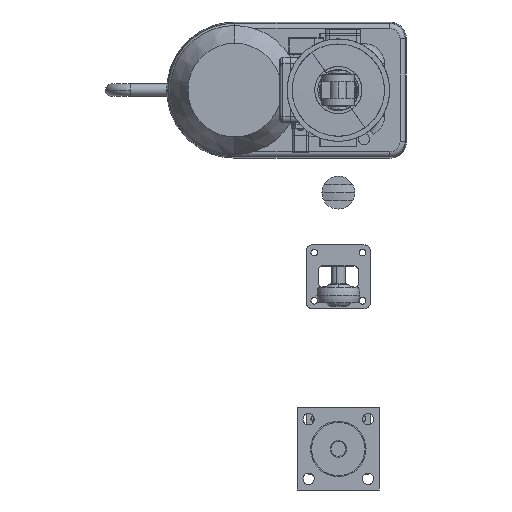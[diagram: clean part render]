
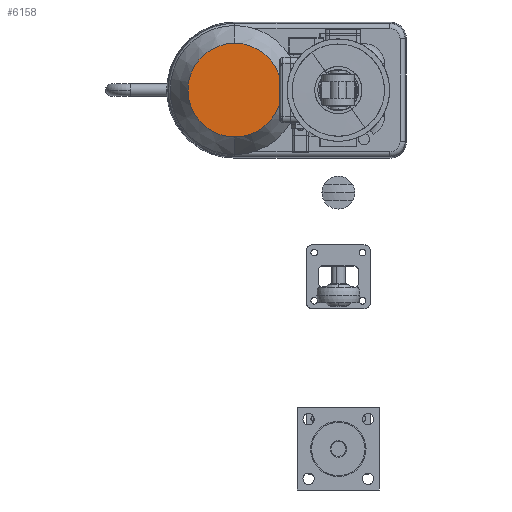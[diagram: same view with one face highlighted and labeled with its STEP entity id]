
A CAD part, left-side view. The second image highlights one B-rep face of the part: STEP entity #6158.
In plain terms, the highlighted planar face has unit normal (-1, 0, 0) as drawn and (0, 0, -1) by its records, which use the part's own axes.
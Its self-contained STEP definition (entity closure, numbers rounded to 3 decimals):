
#6158 = ADVANCED_FACE ( 'NONE', ( #49168 ), #9160, .F. ) ;
#6952 = EDGE_CURVE ( 'NONE', #53342, #53336, #39200, .T. ) ;
#6971 = EDGE_CURVE ( 'NONE', #53336, #53342, #39233, .T. ) ;
#9158 = CARTESIAN_POINT ( 'NONE',  ( -16.958, 112.38, -262.569 ) ) ;
#9160 = PLANE ( 'NONE',  #42220 ) ;
#9163 = DIRECTION ( 'NONE',  ( 0., 0., 1. ) ) ;
#9164 = DIRECTION ( 'NONE',  ( 1., 0., 0. ) ) ;
#10326 = EDGE_LOOP ( 'NONE', ( #67254, #67253 ) ) ;
#37162 = CARTESIAN_POINT ( 'NONE',  ( -16.958, 66.701, -262.569 ) ) ;
#37163 = DIRECTION ( 'NONE',  ( 0., 0., 1. ) ) ;
#37164 = DIRECTION ( 'NONE',  ( 1., 0., 0. ) ) ;
#37213 = CARTESIAN_POINT ( 'NONE',  ( -16.958, 66.701, -262.569 ) ) ;
#37214 = DIRECTION ( 'NONE',  ( 0., 0., 1. ) ) ;
#37215 = DIRECTION ( 'NONE',  ( 1., 0., 0. ) ) ;
#39200 = CIRCLE ( 'NONE', #41824, 45.679 ) ;
#39233 = CIRCLE ( 'NONE', #41809, 45.679 ) ;
#41809 = AXIS2_PLACEMENT_3D ( 'NONE', #37213, #37214, #37215 ) ;
#41824 = AXIS2_PLACEMENT_3D ( 'NONE', #37162, #37163, #37164 ) ;
#42220 = AXIS2_PLACEMENT_3D ( 'NONE', #9158, #9163, #9164 ) ;
#49168 = FACE_OUTER_BOUND ( 'NONE', #10326, .T. ) ;
#53336 = VERTEX_POINT ( 'NONE', #57763 ) ;
#53342 = VERTEX_POINT ( 'NONE', #57766 ) ;
#57763 = CARTESIAN_POINT ( 'NONE',  ( -62.637, 66.701, -262.569 ) ) ;
#57766 = CARTESIAN_POINT ( 'NONE',  ( 28.722, 66.701, -262.569 ) ) ;
#67253 = ORIENTED_EDGE ( 'NONE', *, *, #6971, .F. ) ;
#67254 = ORIENTED_EDGE ( 'NONE', *, *, #6952, .F. ) ;
